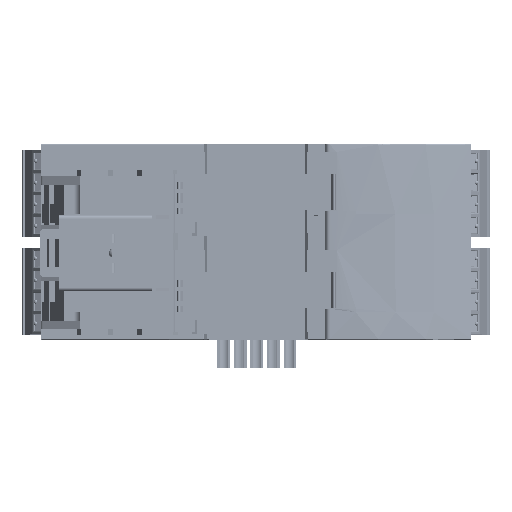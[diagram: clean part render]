
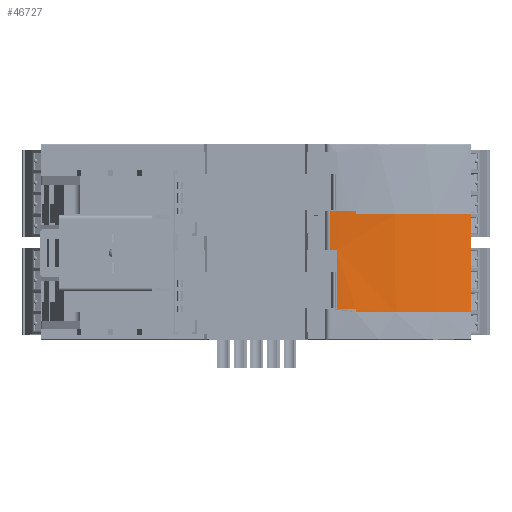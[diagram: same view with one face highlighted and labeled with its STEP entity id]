
A CAD part, top view. The second image highlights one B-rep face of the part: STEP entity #46727.
In plain terms, the highlighted cylindrical face has radius 77.596 mm (diameter 155.192 mm), a partial arc.
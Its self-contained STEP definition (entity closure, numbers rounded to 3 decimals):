
#46727=ADVANCED_FACE('',(#212521),#212523,.T.);
#212521=FACE_BOUND('',#212522,.T.);
#212522=EDGE_LOOP('',(#377988,#377989,#377990,#377991,#377992,#377993,#377994,#377995,
#377996,#377997));
#212523=CYLINDRICAL_SURFACE('',#212524,77.596);
#212524=AXIS2_PLACEMENT_3D('',#212525,#212526,#212527);
#212525=CARTESIAN_POINT('',(16.,-0.1,-77.596));
#212526=DIRECTION('',(0.,1.,0.));
#212527=DIRECTION('',(1.,0.,0.));
#377988=ORIENTED_EDGE('',*,*,#507085,.T.);
#377989=ORIENTED_EDGE('',*,*,#507086,.F.);
#377990=ORIENTED_EDGE('',*,*,#507087,.T.);
#377991=ORIENTED_EDGE('',*,*,#507088,.F.);
#377992=ORIENTED_EDGE('',*,*,#503414,.T.);
#377993=ORIENTED_EDGE('',*,*,#507089,.F.);
#377994=ORIENTED_EDGE('',*,*,#503369,.F.);
#377995=ORIENTED_EDGE('',*,*,#507084,.T.);
#377996=ORIENTED_EDGE('',*,*,#507090,.F.);
#377997=ORIENTED_EDGE('',*,*,#507091,.T.);
#503369=EDGE_CURVE('',#589472,#589474,#589475,.T.);
#503414=EDGE_CURVE('',#589562,#589560,#589563,.T.);
#507084=EDGE_CURVE('',#589472,#595603,#595605,.T.);
#507085=EDGE_CURVE('',#595606,#595607,#595608,.T.);
#507086=EDGE_CURVE('',#595609,#595607,#595610,.T.);
#507087=EDGE_CURVE('',#595609,#595611,#595612,.T.);
#507088=EDGE_CURVE('',#589562,#595611,#595613,.T.);
#507089=EDGE_CURVE('',#589474,#589560,#595614,.T.);
#507090=EDGE_CURVE('',#595615,#595603,#595616,.T.);
#507091=EDGE_CURVE('',#595615,#595606,#595617,.T.);
#589472=VERTEX_POINT('',#726040);
#589474=VERTEX_POINT('',#726044);
#589475=CIRCLE('',#726045,77.596);
#589560=VERTEX_POINT('',#726223);
#589562=VERTEX_POINT('',#726228);
#589563=CIRCLE('',#726229,77.596);
#595603=VERTEX_POINT('',#742783);
#595605=LINE('',#742787,#742788);
#595606=VERTEX_POINT('',#742790);
#595607=VERTEX_POINT('',#742791);
#595608=CIRCLE('',#742792,77.596);
#595609=VERTEX_POINT('',#742796);
#595610=LINE('',#742797,#742798);
#595611=VERTEX_POINT('',#742800);
#595612=CIRCLE('',#742801,77.596);
#595613=LINE('',#742805,#742806);
#595614=LINE('',#742808,#742809);
#595615=VERTEX_POINT('',#742811);
#595616=CIRCLE('',#742812,77.596);
#595617=LINE('',#742816,#742817);
#726040=CARTESIAN_POINT('',(23.,28.8,-0.316));
#726044=CARTESIAN_POINT('',(49.587,28.8,-7.645));
#726045=AXIS2_PLACEMENT_3D('',#726046,#726047,#726048);
#726046=CARTESIAN_POINT('',(16.,28.8,-77.596));
#726047=DIRECTION('',(0.,1.,0.));
#726048=DIRECTION('',(0.09,0.,0.996));
#726223=CARTESIAN_POINT('',(49.587,6.2,-7.645));
#726228=CARTESIAN_POINT('',(23.1,6.2,-0.326));
#726229=AXIS2_PLACEMENT_3D('',#726230,#726231,#726232);
#726230=CARTESIAN_POINT('',(16.,6.2,-77.596));
#726231=DIRECTION('',(0.,1.,0.));
#726232=DIRECTION('',(0.091,0.,0.996));
#742783=CARTESIAN_POINT('',(23.,29.6,-0.316));
#742787=CARTESIAN_POINT('',(23.,28.8,-0.316));
#742788=VECTOR('',#742789,1.);
#742789=DIRECTION('',(0.,1.,0.));
#742790=CARTESIAN_POINT('',(17.013,20.5,-0.007));
#742791=CARTESIAN_POINT('',(18.6,20.5,-0.044));
#742792=AXIS2_PLACEMENT_3D('',#742793,#742794,#742795);
#742793=CARTESIAN_POINT('',(16.,20.5,-77.596));
#742794=DIRECTION('',(0.,1.,0.));
#742795=DIRECTION('',(0.013,0.,1.));
#742796=CARTESIAN_POINT('',(18.6,7.,-0.044));
#742797=CARTESIAN_POINT('',(18.6,7.,-0.044));
#742798=VECTOR('',#742799,1.);
#742799=DIRECTION('',(0.,1.,0.));
#742800=CARTESIAN_POINT('',(23.1,7.,-0.326));
#742801=AXIS2_PLACEMENT_3D('',#742802,#742803,#742804);
#742802=CARTESIAN_POINT('',(16.,7.,-77.596));
#742803=DIRECTION('',(0.,1.,0.));
#742804=DIRECTION('',(0.034,0.,0.999));
#742805=CARTESIAN_POINT('',(23.1,6.2,-0.326));
#742806=VECTOR('',#742807,1.);
#742807=DIRECTION('',(0.,1.,0.));
#742808=CARTESIAN_POINT('',(49.587,28.8,-7.645));
#742809=VECTOR('',#742810,1.);
#742810=DIRECTION('',(0.,-1.,0.));
#742811=CARTESIAN_POINT('',(17.013,29.6,-0.007));
#742812=AXIS2_PLACEMENT_3D('',#742813,#742814,#742815);
#742813=CARTESIAN_POINT('',(16.,29.6,-77.596));
#742814=DIRECTION('',(0.,1.,0.));
#742815=DIRECTION('',(0.013,0.,1.));
#742816=CARTESIAN_POINT('',(17.013,29.6,-0.007));
#742817=VECTOR('',#742818,1.);
#742818=DIRECTION('',(0.,-1.,0.));
